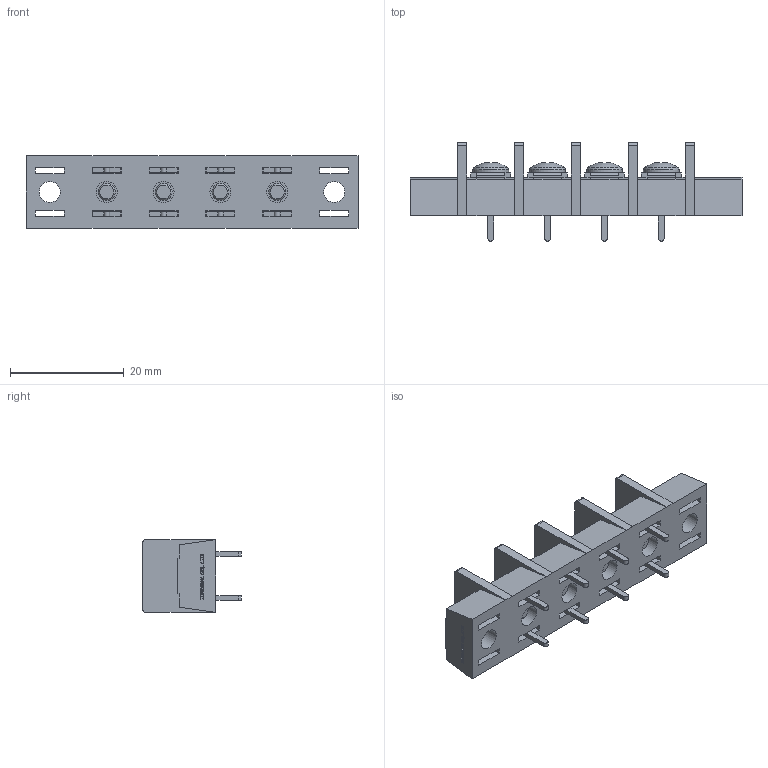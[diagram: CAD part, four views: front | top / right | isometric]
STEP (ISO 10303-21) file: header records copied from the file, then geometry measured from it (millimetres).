
FILE_DESCRIPTION(/* description */ ('Alibre Inc.'),/* implementation_level */ '2;1');
FILE_NAME(/* name */ 'export0',/* time_stamp */ '2015-10-23T18:48:56+09:00',/* author */ (''),/* organization */ (''),/* preprocessor_version */ 'ST-DEVELOPER v14',/* originating_system */ 'Alibre',/* authorisation */ '');
FILE_SCHEMA (('CONFIG_CONTROL_DESIGN'));
Length unit declared in the file: centimetre
Products named in the file (1): ID_1
Bounding box: 58.4 x 17.3 x 12.8 mm (x, y, z)
Volume: 4935.8 mm3; surface area: 5768.6 mm2
Topology: 1 solids, 69 shells, 1552 faces, 4010 edges, 2654 vertices
Faces by surface type: plane 1158, bspline 312, cylinder 50, cone 20, torus 8, sphere 4
Full cylindrical faces by diameter (mm): 3 x8, 3.7 x6, 4.6 x6, 6.3 x4
Entity records: 45235 total; most frequent: CARTESIAN_POINT 10975, ORIENTED_EDGE 7936, DIRECTION 4702, EDGE_CURVE 3968, VECTOR 3070, LINE 3070, VERTEX_POINT 2648, EDGE_LOOP 1714
